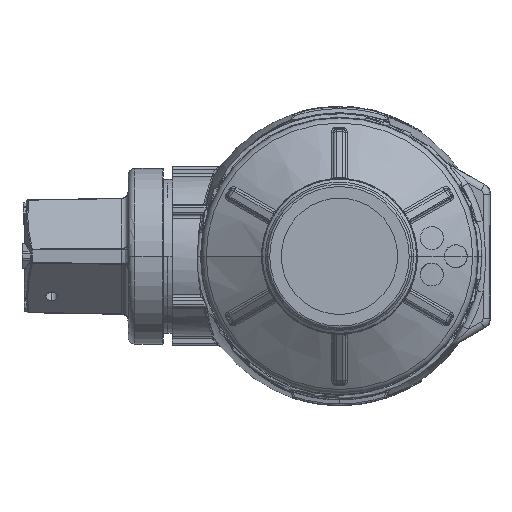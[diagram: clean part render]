
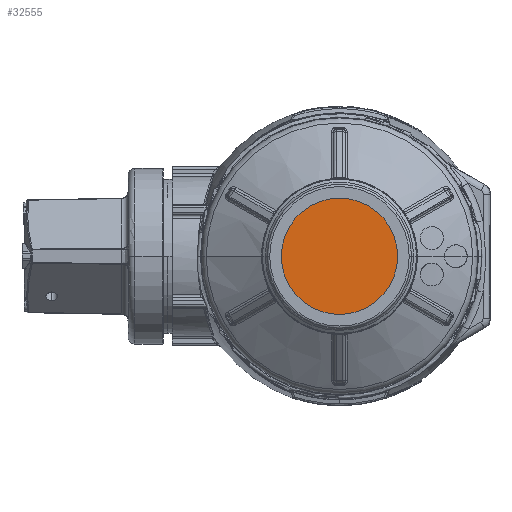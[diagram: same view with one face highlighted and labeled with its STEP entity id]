
A CAD part, left-side view. The second image highlights one B-rep face of the part: STEP entity #32555.
In plain terms, the highlighted planar face has unit normal (-1, 0, 0).
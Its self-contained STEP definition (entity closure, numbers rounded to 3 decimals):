
#7522 = AXIS2_PLACEMENT_3D ( 'NONE', #67657, #67659, #67661 ) ;
#7916 = AXIS2_PLACEMENT_3D ( 'NONE', #58198, #58203, #58204 ) ;
#16745 = CARTESIAN_POINT ( 'NONE',  ( -190.2, 25.5, 0. ) ) ;
#16801 = CARTESIAN_POINT ( 'NONE',  ( -190.2, -25.5, 0. ) ) ;
#25839 = CIRCLE ( 'NONE', #35666, 25.5 ) ;
#30776 = EDGE_CURVE ( 'NONE', #80169, #80151, #69745, .T. ) ;
#32555 = ADVANCED_FACE ( 'NONE', ( #59561 ), #58200, .T. ) ;
#33393 = CARTESIAN_POINT ( 'NONE',  ( -190.2, 0., 0. ) ) ;
#33395 = DIRECTION ( 'NONE',  ( -1., 0., 0. ) ) ;
#33396 = DIRECTION ( 'NONE',  ( 0., 0., 1. ) ) ;
#35666 = AXIS2_PLACEMENT_3D ( 'NONE', #33393, #33395, #33396 ) ;
#58198 = CARTESIAN_POINT ( 'NONE',  ( -190.2, 0., 0. ) ) ;
#58200 = PLANE ( 'NONE',  #7916 ) ;
#58203 = DIRECTION ( 'NONE',  ( -1., 0., 0. ) ) ;
#58204 = DIRECTION ( 'NONE',  ( 0., 0., 1. ) ) ;
#59561 = FACE_OUTER_BOUND ( 'NONE', #76358, .T. ) ;
#67657 = CARTESIAN_POINT ( 'NONE',  ( -190.2, 0., 0. ) ) ;
#67659 = DIRECTION ( 'NONE',  ( -1., 0., 0. ) ) ;
#67661 = DIRECTION ( 'NONE',  ( 0., 0., 1. ) ) ;
#69745 = CIRCLE ( 'NONE', #7522, 25.5 ) ;
#76358 = EDGE_LOOP ( 'NONE', ( #89659, #89662 ) ) ;
#80151 = VERTEX_POINT ( 'NONE', #16745 ) ;
#80169 = VERTEX_POINT ( 'NONE', #16801 ) ;
#85360 = EDGE_CURVE ( 'NONE', #80151, #80169, #25839, .T. ) ;
#89659 = ORIENTED_EDGE ( 'NONE', *, *, #30776, .T. ) ;
#89662 = ORIENTED_EDGE ( 'NONE', *, *, #85360, .T. ) ;
